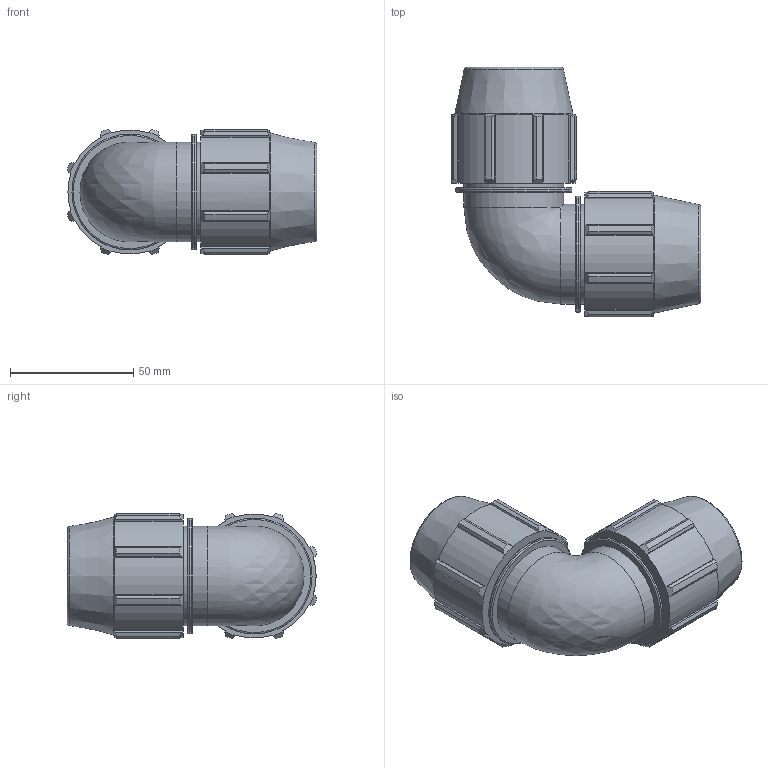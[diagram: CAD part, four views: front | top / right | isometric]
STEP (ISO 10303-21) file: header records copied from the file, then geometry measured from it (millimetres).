
FILE_DESCRIPTION(/* description */ ('PLASSON 90° ELBOW 3/4'''' - 3/4'''''),/* implementation_level */ '2;1');
FILE_NAME(/* name */ 'C:\Dropbox\KIMPROJECTS-Inventor 2019\99-16-3568-Processing Inch\ASTM Compression 2021\0705M0\0705M0007.ipt.stp',/* time_stamp */ '2021-08-26T12:31:51+03:00',/* author */ ('KIM'),/* organization */ (''),/* preprocessor_version */ 'ST-DEVELOPER v17.2',/* originating_system */ 'Autodesk Inventor 2019',/* authorisation */ '');
FILE_SCHEMA (('AUTOMOTIVE_DESIGN { 1 0 10303 214 3 1 1 }','TECHNICAL_DATA_PACKAGING'));
Length unit declared in the file: inch
Products named in the file (1): 0705M0007
Bounding box: 101.4 x 101.4 x 50.91 mm (x, y, z)
Volume: 161480.5 mm3; surface area: 38814 mm2
Topology: 1 solids, 1 shells, 148 faces, 436 edges, 298 vertices
Faces by surface type: plane 76, cylinder 40, cone 24, torus 7, bspline 1
Full cylindrical faces by diameter (mm): 26.6 x2, 40.576 x4, 47.069 x2
Entity records: 5177 total; most frequent: CARTESIAN_POINT 1035, ORIENTED_EDGE 868, DIRECTION 828, EDGE_CURVE 434, AXIS2_PLACEMENT_3D 310, VERTEX_POINT 298, LINE 208, VECTOR 208
